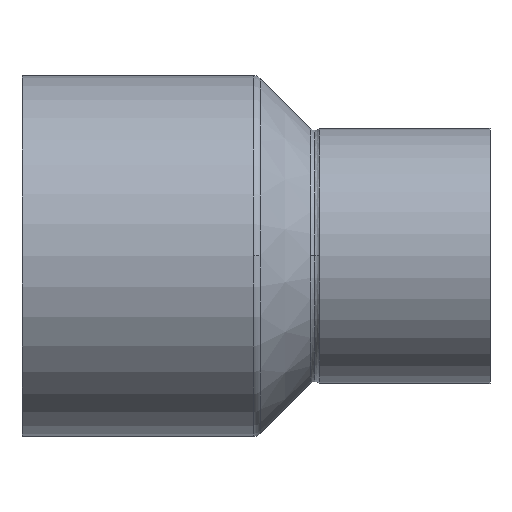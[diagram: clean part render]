
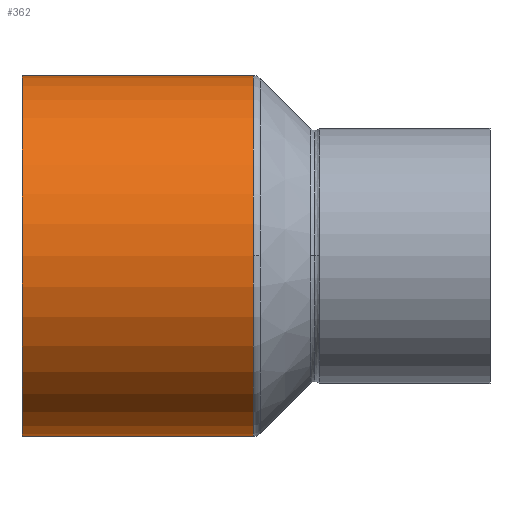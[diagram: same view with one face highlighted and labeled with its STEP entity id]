
A CAD part, top view. The second image highlights one B-rep face of the part: STEP entity #362.
In plain terms, the highlighted cylindrical face has radius 27 mm (diameter 54 mm), a partial arc.
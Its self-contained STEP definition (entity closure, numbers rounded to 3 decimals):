
#312=CARTESIAN_POINT('',(17.276,0.0,0.0));
#313=DIRECTION('',(1.0,0.0,0.0));
#314=DIRECTION('',(0.0,1.0,0.0));
#315=AXIS2_PLACEMENT_3D('',#312,#313,#314);
#316=CYLINDRICAL_SURFACE('',#315,27.0);
#317=CARTESIAN_POINT('',(0.,27.0,0.0));
#318=VERTEX_POINT('',#317);
#319=CARTESIAN_POINT('',(34.552,27.0,0.0));
#320=VERTEX_POINT('',#319);
#321=CARTESIAN_POINT('',(0.,27.0,0.0));
#322=DIRECTION('',(1.0,0.0,0.0));
#323=VECTOR('',#322,34.552);
#324=LINE('',#321,#323);
#325=EDGE_CURVE('',#318,#320,#324,.T.);
#326=ORIENTED_EDGE('',*,*,#325,.F.);
#327=CARTESIAN_POINT('',(0.,-27.0,0.));
#328=VERTEX_POINT('',#327);
#329=CARTESIAN_POINT('',(0.,0.0,0.0));
#330=DIRECTION('',(1.0,0.0,0.0));
#331=DIRECTION('',(0.0,1.0,0.0));
#332=AXIS2_PLACEMENT_3D('',#329,#330,#331);
#333=CIRCLE('',#332,27.0);
#334=EDGE_CURVE('',#318,#328,#333,.T.);
#335=ORIENTED_EDGE('',*,*,#334,.T.);
#336=CARTESIAN_POINT('',(34.552,-27.0,0.));
#337=VERTEX_POINT('',#336);
#338=CARTESIAN_POINT('',(34.552,-27.0,0.));
#339=DIRECTION('',(-1.0,0.0,0.0));
#340=VECTOR('',#339,34.552);
#341=LINE('',#338,#340);
#342=EDGE_CURVE('',#337,#328,#341,.T.);
#343=ORIENTED_EDGE('',*,*,#342,.F.);
#344=CARTESIAN_POINT('',(34.552,0.,27.0));
#345=VERTEX_POINT('',#344);
#346=CARTESIAN_POINT('',(34.552,0.0,0.0));
#347=DIRECTION('',(1.0,0.0,0.0));
#348=DIRECTION('',(0.0,1.0,0.0));
#349=AXIS2_PLACEMENT_3D('',#346,#347,#348);
#350=CIRCLE('',#349,27.0);
#351=EDGE_CURVE('',#345,#337,#350,.T.);
#352=ORIENTED_EDGE('',*,*,#351,.F.);
#353=CARTESIAN_POINT('',(34.552,0.0,0.0));
#354=DIRECTION('',(1.0,0.0,0.0));
#355=DIRECTION('',(0.0,1.0,0.0));
#356=AXIS2_PLACEMENT_3D('',#353,#354,#355);
#357=CIRCLE('',#356,27.0);
#358=EDGE_CURVE('',#320,#345,#357,.T.);
#359=ORIENTED_EDGE('',*,*,#358,.F.);
#360=EDGE_LOOP('',(#326,#335,#343,#352,#359));
#361=FACE_OUTER_BOUND('',#360,.T.);
#362=ADVANCED_FACE('',(#361),#316,.T.);
